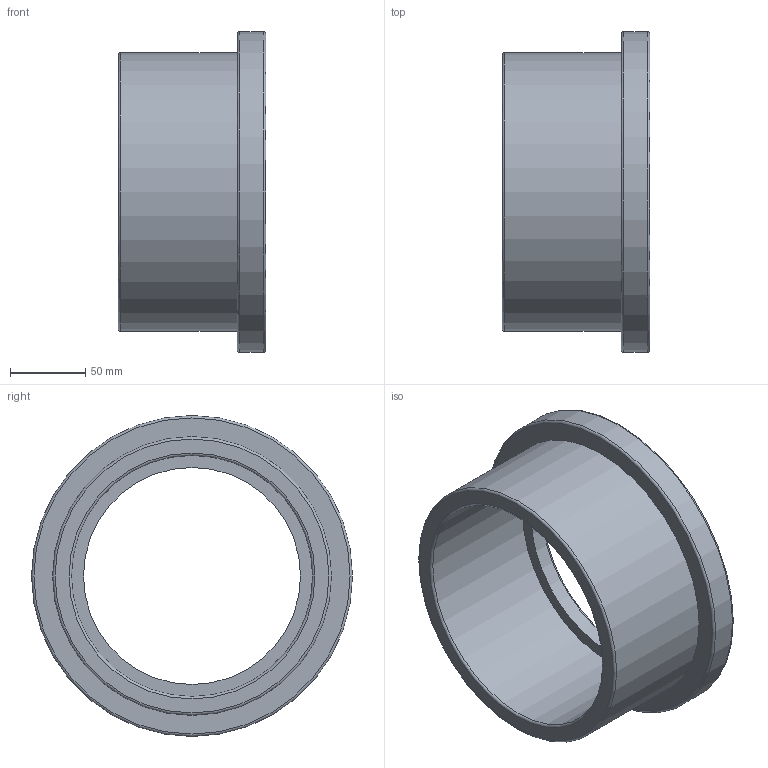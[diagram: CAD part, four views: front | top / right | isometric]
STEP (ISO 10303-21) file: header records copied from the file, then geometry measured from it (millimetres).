
FILE_DESCRIPTION(/* description */ ('PLASSON FLANGE AD.+O-RING-CE 160'),/* implementation_level */ '2;1');
FILE_NAME(/* name */ 'C:\Dropbox\KIMPROJECTS-Inventor\99-16-3568-Processing\PVC Catalog 2017\055000\055000160.ipt.stp',/* time_stamp */ '2017-12-07T16:04:46+02:00',/* author */ ('KIM'),/* organization */ (''),/* preprocessor_version */ 'ST-DEVELOPER v15.6',/* originating_system */ 'Autodesk Inventor 2015',/* authorisation */ '');
FILE_SCHEMA (('AUTOMOTIVE_DESIGN { 1 0 10303 214 3 1 1 }'));
Length unit declared in the file: millimetre
Products named in the file (1): 055000160
Bounding box: 98 x 213 x 213 mm (x, y, z)
Volume: 841336.1 mm3; surface area: 148856.1 mm2
Topology: 1 solids, 1 shells, 21 faces, 36 edges, 21 vertices
Faces by surface type: torus 9, plane 6, cylinder 6
Full cylindrical faces by diameter (mm): 144 x1, 160 x1, 168.15 x1, 185 x1, 188.85 x1, 213 x1
Entity records: 452 total; most frequent: DIRECTION 86, CARTESIAN_POINT 64, AXIS2_PLACEMENT_3D 43, EDGE_LOOP 42, ORIENTED_EDGE 42, FACE_BOUND 21, FACE_OUTER_BOUND 21, CIRCLE 21
